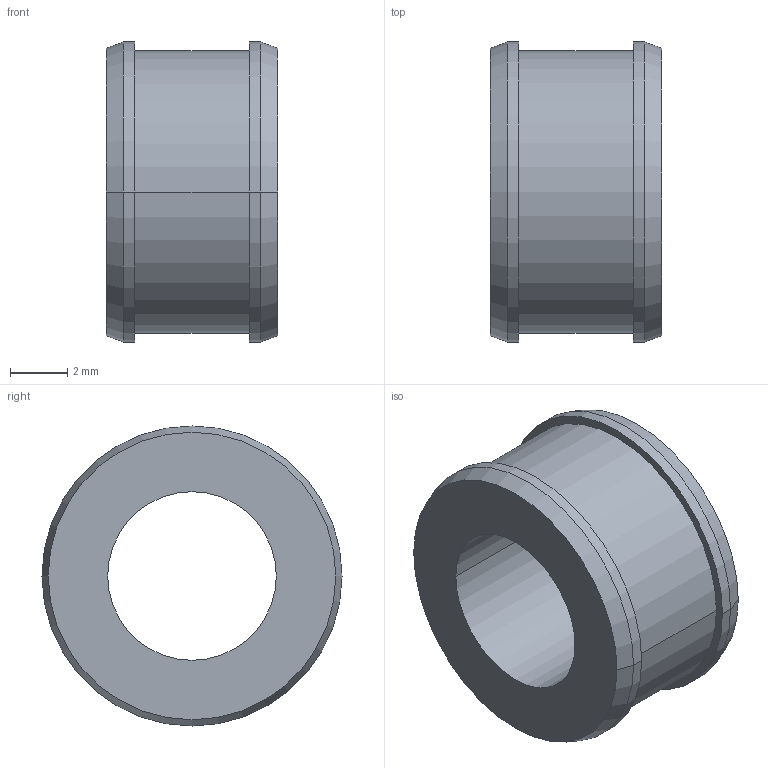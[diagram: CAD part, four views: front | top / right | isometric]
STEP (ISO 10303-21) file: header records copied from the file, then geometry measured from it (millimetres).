
FILE_DESCRIPTION((''),'2;1');
FILE_NAME('0000237156_PRT','2025-11-12T18:34:11',('Wyndorps'),(''),'CREO PARAMETRIC BY PTC INC, 2025010','CREO PARAMETRIC BY PTC INC, 2025010','');
FILE_SCHEMA(('CONFIG_CONTROL_DESIGN'));
Length unit declared in the file: millimetre
Products named in the file (1): 0000237156_PRT
Bounding box: 6 x 10.5 x 10.5 mm (x, y, z)
Volume: 312.8 mm3; surface area: 426.9 mm2
Topology: 1 solids, 1 shells, 16 faces, 32 edges, 20 vertices
Faces by surface type: cylinder 8, plane 4, cone 4
Entity records: 466 total; most frequent: DIRECTION 84, CARTESIAN_POINT 68, ORIENTED_EDGE 64, AXIS2_PLACEMENT_3D 36, EDGE_CURVE 32, VERTEX_POINT 20, EDGE_LOOP 20, CIRCLE 20
